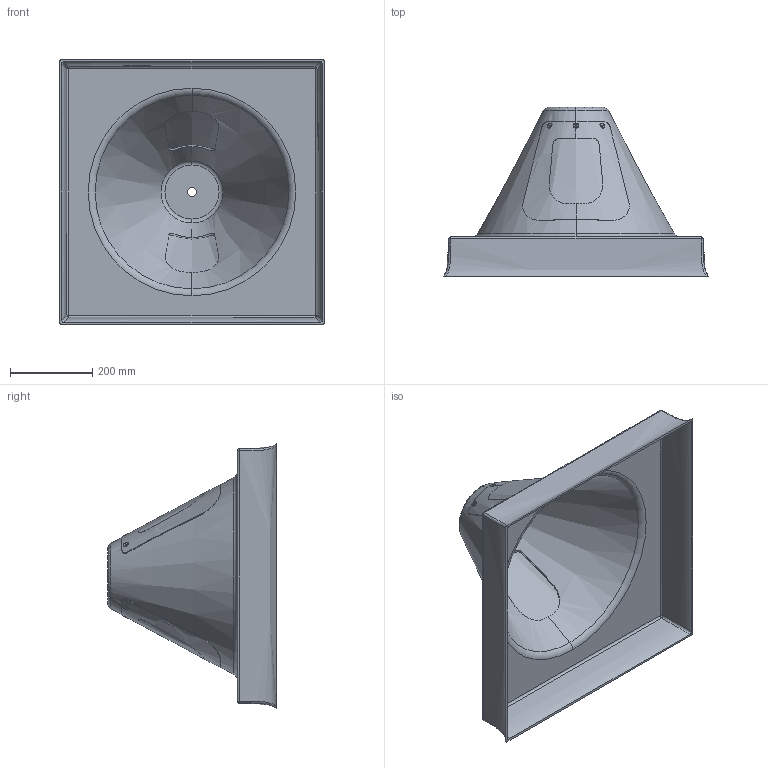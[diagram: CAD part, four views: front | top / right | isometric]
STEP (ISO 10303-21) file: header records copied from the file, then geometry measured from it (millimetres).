
FILE_DESCRIPTION (( 'STEP AP214' ), '1' );
FILE_NAME ('0000002122.STEP', '2015-05-04T06:46:57', ( 'HP' ), ( 'Hewlett-Packard Company' ), 'SwSTEP 2.0', 'SolidWorks 2014', '' );
FILE_SCHEMA (( 'AUTOMOTIVE_DESIGN' ));
Length unit declared in the file: millimetre
Products named in the file (3): 0000002122; 0000002116; 0000002120
Assembly tree (3 placements, depth 2):
  0000002122
    0000002120
    0000002116  x2
Bounding box: 645 x 412 x 645 mm (x, y, z)
Volume: 3162967.5 mm3; surface area: 1787447.3 mm2
Topology: 9 solids, 9 shells, 135 faces, 330 edges, 204 vertices
Faces by surface type: cylinder 38, plane 33, bspline 24, torus 20, sphere 12, cone 8
Entity records: 6256 total; most frequent: CARTESIAN_POINT 3751, ORIENTED_EDGE 506, DIRECTION 449, EDGE_CURVE 253, AXIS2_PLACEMENT_3D 200, VERTEX_POINT 158, EDGE_LOOP 117, CIRCLE 114
